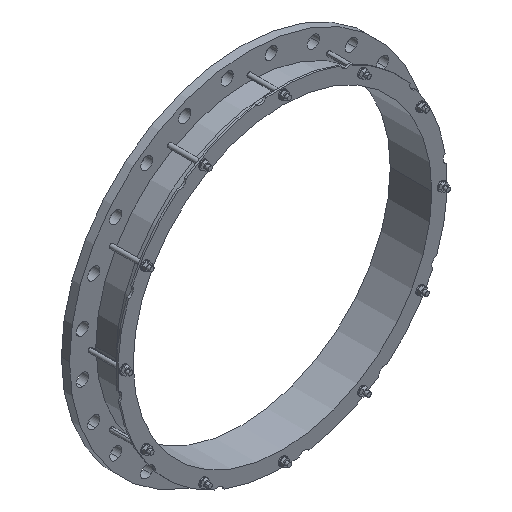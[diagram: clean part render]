
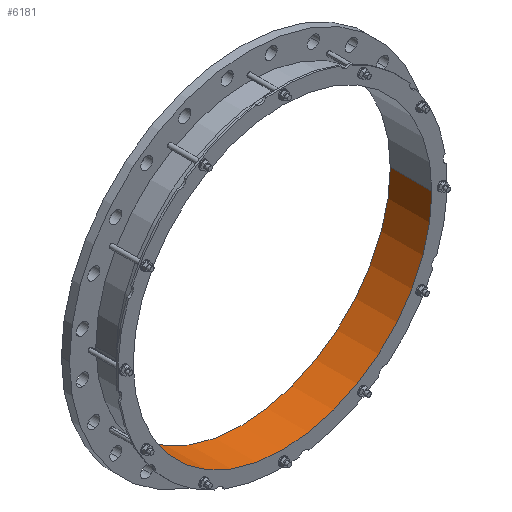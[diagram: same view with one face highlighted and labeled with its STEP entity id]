
A CAD part, isometric view. The second image highlights one B-rep face of the part: STEP entity #6181.
In plain terms, the highlighted cylindrical face has radius 422 mm (diameter 844 mm), a partial arc.
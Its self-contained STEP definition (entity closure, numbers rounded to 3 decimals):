
#7=CARTESIAN_POINT('',(0.,23.,0.));
#8=DIRECTION('',(0.,1.,0.));
#9=DIRECTION('',(1.,0.,0.));
#10=AXIS2_PLACEMENT_3D('',#7,#8,#9);
#2325=CARTESIAN_POINT('',(0.,-94.452,0.));
#2326=DIRECTION('',(0.,1.,0.));
#2327=DIRECTION('',(1.,0.,0.));
#2328=AXIS2_PLACEMENT_3D('',#2325,#2326,#2327);
#2330=DIRECTION('',(0.,1.,0.));
#2331=VECTOR('',#2330,117.452);
#2332=CARTESIAN_POINT('',(422.,-94.452,0.));
#2333=LINE('',#2332,#2331);
#2334=DIRECTION('',(0.,1.,0.));
#2335=VECTOR('',#2334,117.452);
#2336=CARTESIAN_POINT('',(-422.,-94.452,0.));
#2337=LINE('',#2336,#2335);
#4172=CARTESIAN_POINT('',(422.,-94.452,0.));
#4173=CARTESIAN_POINT('',(422.,23.,0.));
#4174=VERTEX_POINT('',#4172);
#4175=VERTEX_POINT('',#4173);
#4180=CARTESIAN_POINT('',(-422.,-94.452,0.));
#4181=CARTESIAN_POINT('',(-422.,23.,0.));
#4182=VERTEX_POINT('',#4180);
#4183=VERTEX_POINT('',#4181);
#6168=CARTESIAN_POINT('',(0.,-100.325,0.));
#6169=DIRECTION('',(0.,1.,0.));
#6170=DIRECTION('',(-1.,0.,0.));
#6171=AXIS2_PLACEMENT_3D('',#6168,#6169,#6170);
#6172=CYLINDRICAL_SURFACE('',#6171,422.);
#6174=ORIENTED_EDGE('',*,*,#6173,.F.);
#6175=ORIENTED_EDGE('',*,*,#6161,.T.);
#6177=ORIENTED_EDGE('',*,*,#6176,.T.);
#6178=ORIENTED_EDGE('',*,*,#5095,.F.);
#6179=EDGE_LOOP('',(#6174,#6175,#6177,#6178));
#6180=FACE_OUTER_BOUND('',#6179,.F.);
#6181=ADVANCED_FACE('',(#6180),#6172,.F.);
#11=CIRCLE('',#10,422.);
#2329=CIRCLE('',#2328,422.);
#5095=EDGE_CURVE('',#4175,#4183,#11,.T.);
#6161=EDGE_CURVE('',#4174,#4182,#2329,.T.);
#6173=EDGE_CURVE('',#4174,#4175,#2333,.T.);
#6176=EDGE_CURVE('',#4182,#4183,#2337,.T.);
